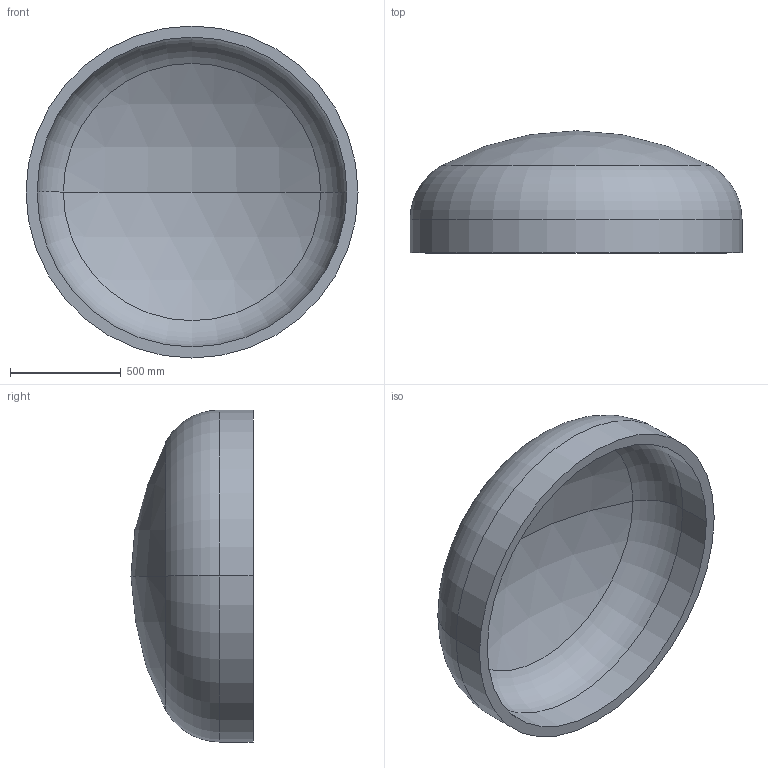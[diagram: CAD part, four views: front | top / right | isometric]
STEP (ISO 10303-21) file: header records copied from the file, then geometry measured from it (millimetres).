
FILE_DESCRIPTION (( 'STEP AP203' ), '1' );
FILE_NAME ('DIN 28013 Korbbogenform_-_Boden DIN 28013 - 1500 x 150 - I - s=50.step', '2016-07-01T10:49:03', ( '' ), ( '' ), 'SwSTEP 2.0', 'SolidWorks 2013', '' );
FILE_SCHEMA (( 'CONFIG_CONTROL_DESIGN' ));
Length unit declared in the file: millimetre
Products named in the file (1): DIN 28013 Korbbogenform_-_Boden DIN 28013 - 1500 x 150 - I - s=50
Bounding box: 1500 x 551.47 x 1500 mm (x, y, z)
Volume: 151235456.7 mm3; surface area: 6282418.1 mm2
Topology: 1 solids, 1 shells, 13 faces, 24 edges, 14 vertices
Faces by surface type: torus 4, cylinder 4, sphere 4, plane 1
Entity records: 407 total; most frequent: DIRECTION 72, CARTESIAN_POINT 52, ORIENTED_EDGE 48, AXIS2_PLACEMENT_3D 34, EDGE_CURVE 24, CIRCLE 20, EDGE_LOOP 14, VERTEX_POINT 14
